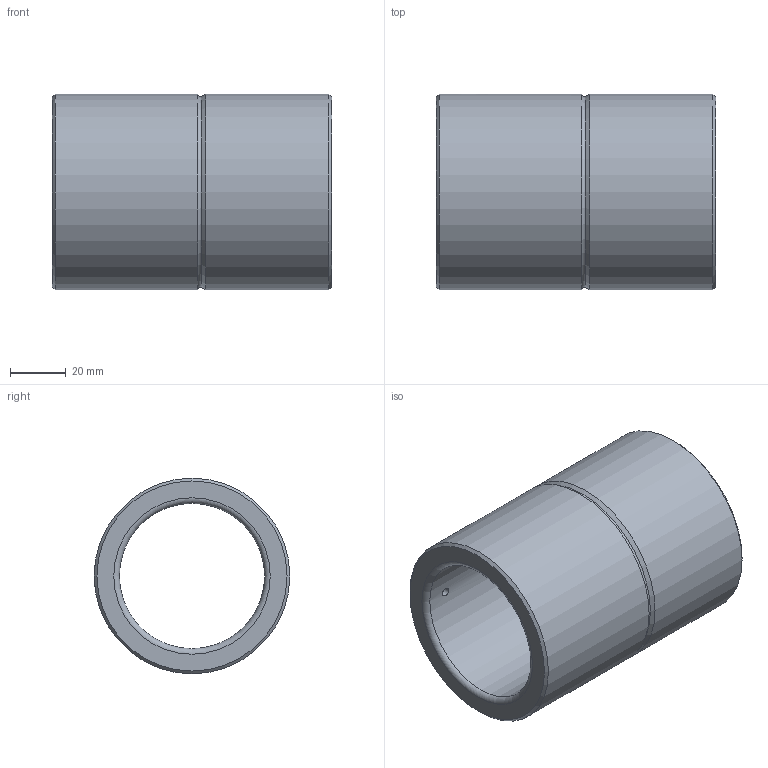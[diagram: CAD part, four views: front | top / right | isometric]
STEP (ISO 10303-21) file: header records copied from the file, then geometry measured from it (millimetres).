
FILE_DESCRIPTION( ( 'STEP AP214' ), '1' );
FILE_NAME( 'p:/temp/worker_410/temp/exporttempdir_2912_311_Xhxl0/format_0/WZ 4068 52 x 100.stp', '2020-11-26T19:23:52', ( 'License CC BY-ND 4.0' ), ( 'CADENAS' ), ' ', 'PARTsolutions', ' ' );
FILE_SCHEMA( ( 'AUTOMOTIVE_DESIGN { 1 0 10303 214 1 1 1 1 }' ) );
Length unit declared in the file: millimetre
Products named in the file (1): _WZ 4068 52 x 100
Bounding box: 100 x 70.04 x 70.04 mm (x, y, z)
Volume: 163423.2 mm3; surface area: 41897.6 mm2
Topology: 1 solids, 1 shells, 16 faces, 29 edges, 17 vertices
Faces by surface type: cylinder 6, cone 4, plane 4, torus 2
Full cylindrical faces by diameter (mm): 3 x1, 5 x1, 52 x1, 54 x1, 70.04 x2
Entity records: 590 total; most frequent: CARTESIAN_POINT 161, DIRECTION 64, EDGE_LOOP 34, ORIENTED_EDGE 34, AXIS2_PLACEMENT_3D 32, FACE_OUTER_BOUND 24, EDGE_CURVE 17, VERTEX_POINT 17
